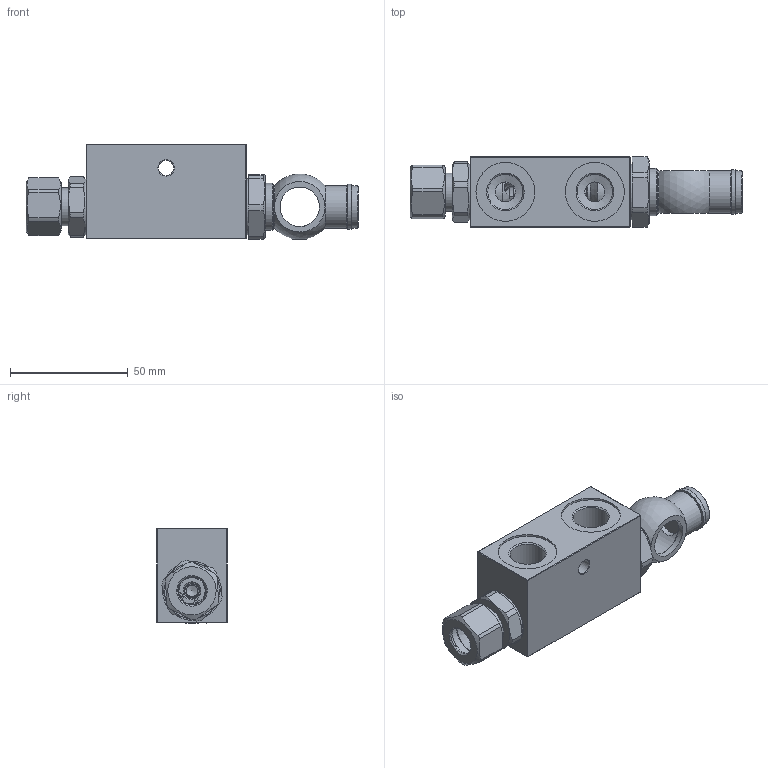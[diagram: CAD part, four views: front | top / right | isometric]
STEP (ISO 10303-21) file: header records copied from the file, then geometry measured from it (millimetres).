
FILE_DESCRIPTION(/* description */ ('Unknown'),/* implementation_level */ '2;1');
FILE_NAME(/* name */ 'VBDDO38',/* time_stamp */ '2024-12-05T10:44:13+01:00',/* author */ ('Unknown'),/* organization */ ('Unknown'),/* preprocessor_version */ 'ST-DEVELOPER v19.4',/* originating_system */ 'Solid Edge',/* authorisation */ 'Unknown');
FILE_SCHEMA (('AUTOMOTIVE_DESIGN {1 0 10303 214 3 1 1}'));
Length unit declared in the file: millimetre
Products named in the file (1): VBDDO38
Bounding box: 140.86 x 29.97 x 40.36 mm (x, y, z)
Volume: 87110.7 mm3; surface area: 28586.2 mm2
Topology: 3 solids, 3 shells, 308 faces, 800 edges, 510 vertices
Faces by surface type: plane 128, cylinder 108, cone 66, bspline 2, torus 2, sphere 2
Full cylindrical faces by diameter (mm): 2.997 x8, 4.076 x2, 4.995 x2, 6.494 x1, 6.993 x2, 7.492 x2, 7.992 x2, 8.492 x4, 8.991 x2, 10.989 x6, 11.738 x2, 11.988 x5, 11.989 x1, 12.188 x2, 12.488 x1, 14.935 x4, 14.985 x2, 16.184 x1, 16.36 x4, 16.783 x2, 17.982 x3, 18.981 x1, 19.98 x1, 23.477 x1, 23.726 x1, 24.975 x4
Entity records: 16680 total; most frequent: CARTESIAN_POINT 7970, DIRECTION 1412, ORIENTED_EDGE 1164, AXIS2_PLACEMENT_3D 627, EDGE_CURVE 582, FACE_BOUND 491, EDGE_LOOP 489, VERTEX_POINT 427
